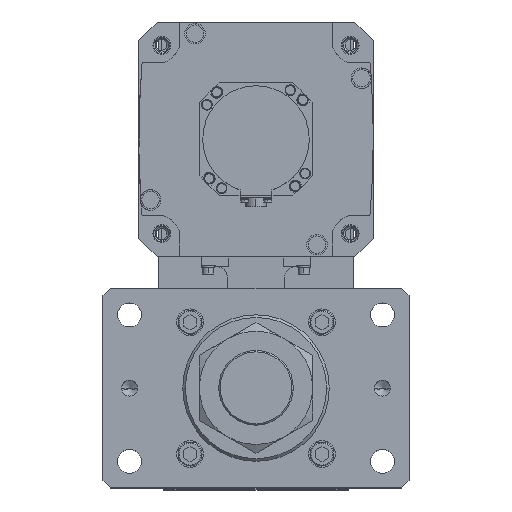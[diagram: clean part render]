
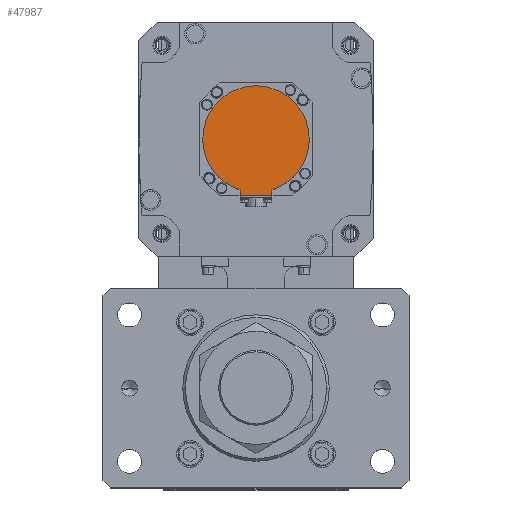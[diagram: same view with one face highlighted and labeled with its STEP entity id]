
A CAD part, top view. The second image highlights one B-rep face of the part: STEP entity #47987.
In plain terms, the highlighted planar face has unit normal (0, 0, 1) as drawn and (0, 0, -1) by its records, which use the part's own axes.
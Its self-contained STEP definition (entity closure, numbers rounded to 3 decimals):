
#77 = CARTESIAN_POINT ( 'NONE',  ( -12., -38.158, -162.5 ) ) ;
#1281 = EDGE_CURVE ( 'NONE', #34407, #1739, #39620, .T. ) ;
#1587 = LINE ( 'NONE', #19266, #4176 ) ;
#1739 = VERTEX_POINT ( 'NONE', #43897 ) ;
#2372 = ORIENTED_EDGE ( 'NONE', *, *, #6517, .T. ) ;
#4176 = VECTOR ( 'NONE', #14998, 1000. ) ;
#6095 = CARTESIAN_POINT ( 'NONE',  ( 0., 0., -162.5 ) ) ;
#6517 = EDGE_CURVE ( 'NONE', #51278, #33440, #32871, .T. ) ;
#7031 = CARTESIAN_POINT ( 'NONE',  ( 12., -38.158, -162.5 ) ) ;
#8536 = FACE_OUTER_BOUND ( 'NONE', #42506, .T. ) ;
#9195 = ORIENTED_EDGE ( 'NONE', *, *, #1281, .F. ) ;
#9264 = AXIS2_PLACEMENT_3D ( 'NONE', #32901, #45041, #20232 ) ;
#9960 = VECTOR ( 'NONE', #51360, 1000. ) ;
#10074 = CARTESIAN_POINT ( 'NONE',  ( 40., 0., -162.5 ) ) ;
#10187 = VERTEX_POINT ( 'NONE', #7031 ) ;
#10584 = LINE ( 'NONE', #11115, #9960 ) ;
#11115 = CARTESIAN_POINT ( 'NONE',  ( 12., -1.249, -162.5 ) ) ;
#13863 = CARTESIAN_POINT ( 'NONE',  ( -12., -40.329, -162.5 ) ) ;
#14960 = ORIENTED_EDGE ( 'NONE', *, *, #15611, .F. ) ;
#14998 = DIRECTION ( 'NONE',  ( -1., 0., 0. ) ) ;
#15116 = CARTESIAN_POINT ( 'NONE',  ( -12., -42.5, -162.5 ) ) ;
#15611 = EDGE_CURVE ( 'NONE', #1739, #33440, #16301, .T. ) ;
#15654 = ORIENTED_EDGE ( 'NONE', *, *, #46341, .F. ) ;
#15677 = EDGE_CURVE ( 'NONE', #43172, #51278, #1587, .T. ) ;
#16235 = DIRECTION ( 'NONE',  ( 1., 0., 0. ) ) ;
#16301 = CIRCLE ( 'NONE', #51445, 40. ) ;
#18361 = DIRECTION ( 'NONE',  ( 0., 0., 1. ) ) ;
#19266 = CARTESIAN_POINT ( 'NONE',  ( 0., -42.5, -162.5 ) ) ;
#20232 = DIRECTION ( 'NONE',  ( 1., 0., 0. ) ) ;
#22634 = DIRECTION ( 'NONE',  ( 0., 0., 1. ) ) ;
#23385 = AXIS2_PLACEMENT_3D ( 'NONE', #28143, #36714, #16235 ) ;
#25268 = DIRECTION ( 'NONE',  ( 0., 1., 0. ) ) ;
#26041 = CARTESIAN_POINT ( 'NONE',  ( 0., 0., -162.5 ) ) ;
#26570 = DIRECTION ( 'NONE',  ( 1., 0., 0. ) ) ;
#27205 = ORIENTED_EDGE ( 'NONE', *, *, #15677, .T. ) ;
#28143 = CARTESIAN_POINT ( 'NONE',  ( 0., -1.249, -162.5 ) ) ;
#32871 = LINE ( 'NONE', #13863, #39217 ) ;
#32901 = CARTESIAN_POINT ( 'NONE',  ( 0., 0., -162.5 ) ) ;
#33440 = VERTEX_POINT ( 'NONE', #77 ) ;
#34407 = VERTEX_POINT ( 'NONE', #10074 ) ;
#36714 = DIRECTION ( 'NONE',  ( 0., 0., 1. ) ) ;
#39185 = CIRCLE ( 'NONE', #49345, 40. ) ;
#39217 = VECTOR ( 'NONE', #25268, 1000. ) ;
#39620 = CIRCLE ( 'NONE', #9264, 40. ) ;
#40110 = PLANE ( 'NONE',  #23385 ) ;
#41469 = ORIENTED_EDGE ( 'NONE', *, *, #41823, .F. ) ;
#41823 = EDGE_CURVE ( 'NONE', #10187, #34407, #39185, .T. ) ;
#42506 = EDGE_LOOP ( 'NONE', ( #2372, #14960, #9195, #41469, #15654, #27205 ) ) ;
#43172 = VERTEX_POINT ( 'NONE', #44863 ) ;
#43897 = CARTESIAN_POINT ( 'NONE',  ( -40., 0., -162.5 ) ) ;
#44863 = CARTESIAN_POINT ( 'NONE',  ( 12., -42.5, -162.5 ) ) ;
#45041 = DIRECTION ( 'NONE',  ( 0., 0., 1. ) ) ;
#46341 = EDGE_CURVE ( 'NONE', #43172, #10187, #10584, .T. ) ;
#46923 = DIRECTION ( 'NONE',  ( 1., 0., 0. ) ) ;
#47987 = ADVANCED_FACE ( 'NONE', ( #8536 ), #40110, .F. ) ;
#49345 = AXIS2_PLACEMENT_3D ( 'NONE', #6095, #18361, #46923 ) ;
#51278 = VERTEX_POINT ( 'NONE', #15116 ) ;
#51360 = DIRECTION ( 'NONE',  ( 0., 1., 0. ) ) ;
#51445 = AXIS2_PLACEMENT_3D ( 'NONE', #26041, #22634, #26570 ) ;
